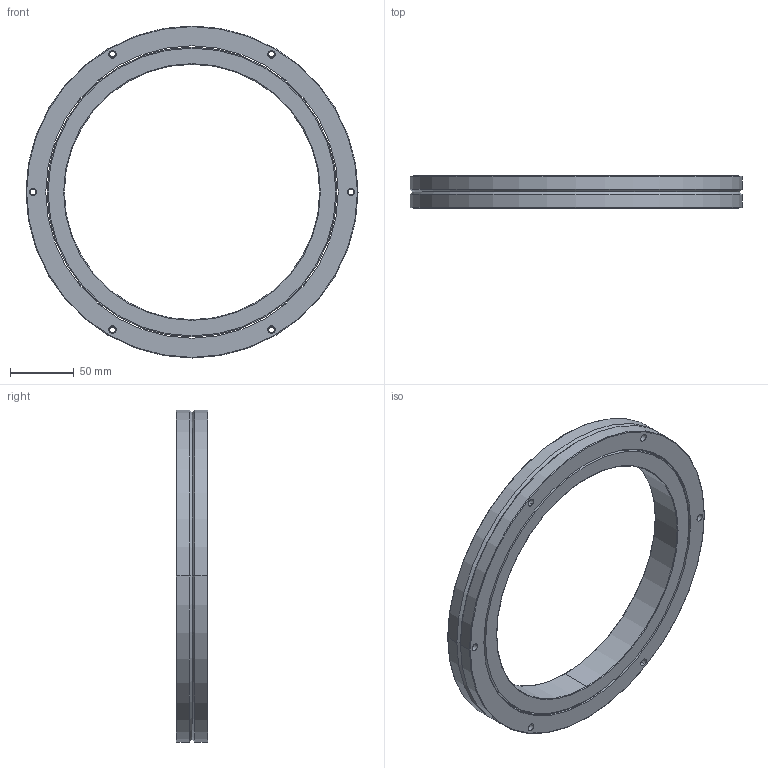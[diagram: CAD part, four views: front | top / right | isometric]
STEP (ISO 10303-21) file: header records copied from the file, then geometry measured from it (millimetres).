
FILE_DESCRIPTION((''),'2;1');
FILE_NAME('RB20025','2015-05-09T',('Administrator'),(''),'PRO/ENGINEER BY PARAMETRIC TECHNOLOGY CORPORATION, 2010180','PRO/ENGINEER BY PARAMETRIC TECHNOLOGY CORPORATION, 2010180','');
FILE_SCHEMA(('AUTOMOTIVE_DESIGN_CC2 { 1 2 10303 214 -1 1 5 2 }'));
Length unit declared in the file: millimetre
Products named in the file (1): RB20025
Bounding box: 260 x 25 x 260 mm (x, y, z)
Volume: 444163 mm3; surface area: 134673.2 mm2
Topology: 2 solids, 2 shells, 104 faces, 220 edges, 138 vertices
Faces by surface type: cylinder 62, plane 22, cone 12, torus 8
Entity records: 2965 total; most frequent: DIRECTION 574, CARTESIAN_POINT 462, ORIENTED_EDGE 440, AXIS2_PLACEMENT_3D 250, EDGE_CURVE 220, CIRCLE 146, VERTEX_POINT 138, EDGE_LOOP 138
